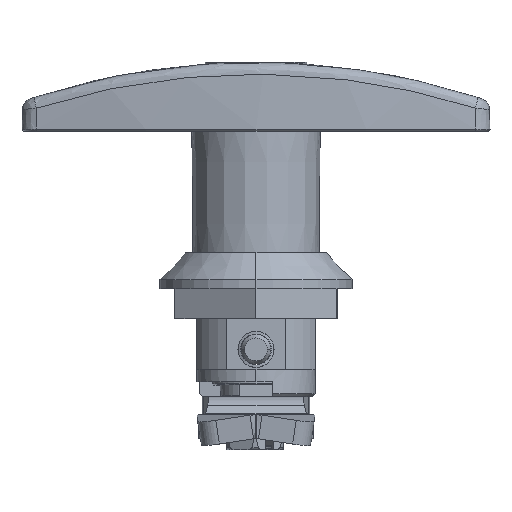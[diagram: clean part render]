
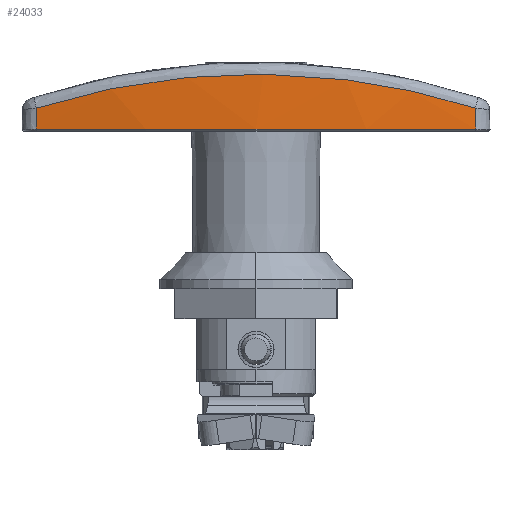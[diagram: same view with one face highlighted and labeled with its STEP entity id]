
A CAD part, left-side view. The second image highlights one B-rep face of the part: STEP entity #24033.
In plain terms, the highlighted conical face has half-angle 1.5 degrees and reference radius 189.882 mm.
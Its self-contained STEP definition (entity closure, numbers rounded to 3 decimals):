
#1654 = CARTESIAN_POINT ( 'NONE',  ( 21.582, -10.093, 29.148 ) ) ;
#1655 = CARTESIAN_POINT ( 'NONE',  ( 18.535, -10.38, 29.622 ) ) ;
#1656 = CARTESIAN_POINT ( 'NONE',  ( 15.487, -10.666, 30.095 ) ) ;
#1657 = CARTESIAN_POINT ( 'NONE',  ( 12.419, -10.884, 30.452 ) ) ;
#1658 = CARTESIAN_POINT ( 'NONE',  ( 9.33, -11.03, 30.691 ) ) ;
#1659 = CARTESIAN_POINT ( 'NONE',  ( 6.241, -11.176, 30.931 ) ) ;
#1660 = CARTESIAN_POINT ( 'NONE',  ( 3.131, -11.25, 31.052 ) ) ;
#1661 = CARTESIAN_POINT ( 'NONE',  ( 0., -11.25, 31.052 ) ) ;
#1662 = CARTESIAN_POINT ( 'NONE',  ( -0.392, -11.25, 31.052 ) ) ;
#1663 = CARTESIAN_POINT ( 'NONE',  ( -0.784, -11.249, 31.05 ) ) ;
#1664 = CARTESIAN_POINT ( 'NONE',  ( -1.176, -11.246, 31.047 ) ) ;
#1665 = CARTESIAN_POINT ( 'NONE',  ( -1.568, -11.244, 31.043 ) ) ;
#1666 = CARTESIAN_POINT ( 'NONE',  ( -1.96, -11.241, 31.037 ) ) ;
#1667 = CARTESIAN_POINT ( 'NONE',  ( -2.353, -11.236, 31.029 ) ) ;
#1668 = CARTESIAN_POINT ( 'NONE',  ( -3.138, -11.227, 31.014 ) ) ;
#1669 = CARTESIAN_POINT ( 'NONE',  ( -3.922, -11.213, 30.991 ) ) ;
#1670 = CARTESIAN_POINT ( 'NONE',  ( -4.703, -11.194, 30.961 ) ) ;
#1671 = CARTESIAN_POINT ( 'NONE',  ( -6.266, -11.157, 30.9 ) ) ;
#1672 = CARTESIAN_POINT ( 'NONE',  ( -7.823, -11.101, 30.809 ) ) ;
#1673 = CARTESIAN_POINT ( 'NONE',  ( -9.373, -11.028, 30.688 ) ) ;
#1674 = CARTESIAN_POINT ( 'NONE',  ( -12.472, -10.881, 30.447 ) ) ;
#1675 = CARTESIAN_POINT ( 'NONE',  ( -15.545, -10.662, 30.088 ) ) ;
#1676 = CARTESIAN_POINT ( 'NONE',  ( -18.591, -10.374, 29.613 ) ) ;
#1677 = CARTESIAN_POINT ( 'NONE',  ( -21.637, -10.087, 29.138 ) ) ;
#1678 = CARTESIAN_POINT ( 'NONE',  ( -24.658, -9.73, 28.548 ) ) ;
#1679 = CARTESIAN_POINT ( 'NONE',  ( -27.652, -9.308, 27.843 ) ) ;
#1680 = CARTESIAN_POINT ( 'NONE',  ( -30.647, -8.885, 27.139 ) ) ;
#1681 = CARTESIAN_POINT ( 'NONE',  ( -33.615, -8.397, 26.319 ) ) ;
#1682 = CARTESIAN_POINT ( 'NONE',  ( -36.558, -7.844, 25.384 ) ) ;
#1684 = B_SPLINE_CURVE_WITH_KNOTS ( 'NONE', 3,
 ( #1682, #1681, #1680, #1679, #1678, #1677, #1676, #1675, #1674, #1673, #1672, #1671, #1670, #1669, #1668, #1667, #1666, #1665, #1664, #1663, #1662, #1661, #1660, #1659, #1658, #1657, #1656, #1655, #1654, #1724, #1723, #1722, #1721, #1720, #1719, #1718, #1717, #1716, #1715, #1714, #1713, #1712, #1711 ),
 .UNSPECIFIED., .F., .F.,
 ( 4, 3, 3, 3, 3, 3, 3, 3, 3, 3, 3, 3, 3, 3, 4 ),
 ( 0., 0.125, 0.25, 0.375, 0.438, 0.469, 0.484, 0.5, 0.625, 0.75, 0.875, 0.938, 0.953, 0.969, 1. ),
 .UNSPECIFIED. ) ;
#1711 = CARTESIAN_POINT ( 'NONE',  ( 36.558, -7.844, 25.384 ) ) ;
#1712 = CARTESIAN_POINT ( 'NONE',  ( 35.822, -7.982, 25.618 ) ) ;
#1713 = CARTESIAN_POINT ( 'NONE',  ( 35.084, -8.117, 25.845 ) ) ;
#1714 = CARTESIAN_POINT ( 'NONE',  ( 34.342, -8.247, 26.065 ) ) ;
#1715 = CARTESIAN_POINT ( 'NONE',  ( 33.972, -8.312, 26.175 ) ) ;
#1716 = CARTESIAN_POINT ( 'NONE',  ( 33.6, -8.377, 26.283 ) ) ;
#1717 = CARTESIAN_POINT ( 'NONE',  ( 33.228, -8.44, 26.39 ) ) ;
#1718 = CARTESIAN_POINT ( 'NONE',  ( 32.856, -8.503, 26.496 ) ) ;
#1719 = CARTESIAN_POINT ( 'NONE',  ( 32.483, -8.566, 26.601 ) ) ;
#1720 = CARTESIAN_POINT ( 'NONE',  ( 32.11, -8.627, 26.704 ) ) ;
#1721 = CARTESIAN_POINT ( 'NONE',  ( 30.617, -8.873, 27.116 ) ) ;
#1722 = CARTESIAN_POINT ( 'NONE',  ( 29.119, -9.101, 27.499 ) ) ;
#1723 = CARTESIAN_POINT ( 'NONE',  ( 27.616, -9.313, 27.852 ) ) ;
#1724 = CARTESIAN_POINT ( 'NONE',  ( 24.609, -9.737, 28.559 ) ) ;
#15102 = CARTESIAN_POINT ( 'NONE',  ( -36.576, -7.934, 21.898 ) ) ;
#15160 = CARTESIAN_POINT ( 'NONE',  ( 36.576, -7.934, 21.898 ) ) ;
#15568 = DIRECTION ( 'NONE',  ( -1., 0., 0. ) ) ;
#15569 = DIRECTION ( 'NONE',  ( 0., 0., 1. ) ) ;
#15570 = CARTESIAN_POINT ( 'NONE',  ( 0., 178.393, 21.898 ) ) ;
#15571 = AXIS2_PLACEMENT_3D ( 'NONE', #15570, #15569, #15568 ) ;
#15572 = CIRCLE ( 'NONE', #15571, 189.882 ) ;
#15686 = CARTESIAN_POINT ( 'NONE',  ( -36.558, -7.844, 25.384 ) ) ;
#15687 = DIRECTION ( 'NONE',  ( -0.005, -0.026, -1. ) ) ;
#15689 = VECTOR ( 'NONE', #15687, 1000. ) ;
#15690 = CARTESIAN_POINT ( 'NONE',  ( -36.576, -7.934, 21.898 ) ) ;
#15691 = LINE ( 'NONE', #15690, #15689 ) ;
#16087 = CARTESIAN_POINT ( 'NONE',  ( 36.558, -7.844, 25.384 ) ) ;
#16092 = LINE ( 'NONE', #16141, #16140 ) ;
#16139 = DIRECTION ( 'NONE',  ( -0.005, 0.026, 1. ) ) ;
#16140 = VECTOR ( 'NONE', #16139, 1000. ) ;
#16141 = CARTESIAN_POINT ( 'NONE',  ( 36.576, -7.934, 21.898 ) ) ;
#18602 = FACE_OUTER_BOUND ( 'NONE', #24034, .T. ) ;
#18665 = DIRECTION ( 'NONE',  ( -1., 0., 0. ) ) ;
#18668 = DIRECTION ( 'NONE',  ( 0., 0., -1. ) ) ;
#18671 = AXIS2_PLACEMENT_3D ( 'NONE', #18676, #18668, #18665 ) ;
#18672 = CONICAL_SURFACE ( 'NONE', #18671, 189.882, 0.026 ) ;
#18676 = CARTESIAN_POINT ( 'NONE',  ( 0., 178.393, 21.898 ) ) ;
#23789 = VERTEX_POINT ( 'NONE', #15102 ) ;
#23797 = VERTEX_POINT ( 'NONE', #15160 ) ;
#23897 = EDGE_CURVE ( 'NONE', #23789, #23797, #15572, .T. ) ;
#23909 = EDGE_CURVE ( 'NONE', #23910, #23789, #15691, .T. ) ;
#23910 = VERTEX_POINT ( 'NONE', #15686 ) ;
#23958 = VERTEX_POINT ( 'NONE', #16087 ) ;
#23960 = EDGE_CURVE ( 'NONE', #23797, #23958, #16092, .T. ) ;
#24033 = ADVANCED_FACE ( 'NONE', ( #18602 ), #18672, .T. ) ;
#24034 = EDGE_LOOP ( 'NONE', ( #24035, #24086, #24088, #24089 ) ) ;
#24035 = ORIENTED_EDGE ( 'NONE', *, *, #23960, .T. ) ;
#24086 = ORIENTED_EDGE ( 'NONE', *, *, #24087, .F. ) ;
#24087 = EDGE_CURVE ( 'NONE', #23910, #23958, #1684, .T. ) ;
#24088 = ORIENTED_EDGE ( 'NONE', *, *, #23909, .T. ) ;
#24089 = ORIENTED_EDGE ( 'NONE', *, *, #23897, .T. ) ;
